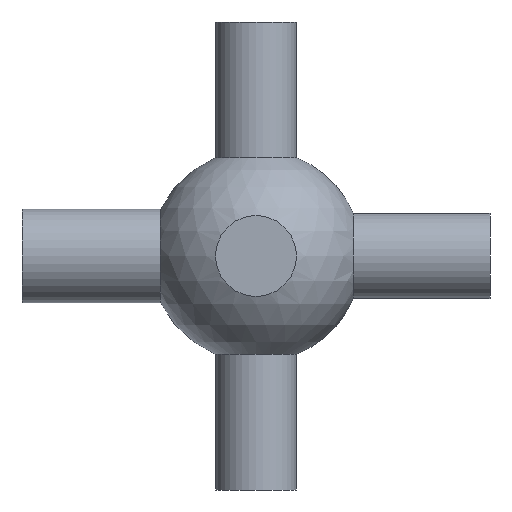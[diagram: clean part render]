
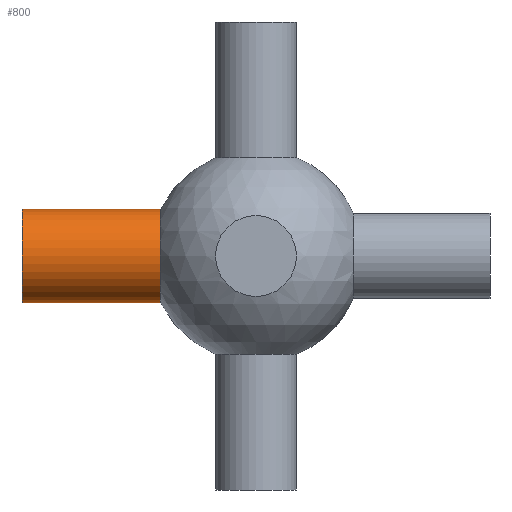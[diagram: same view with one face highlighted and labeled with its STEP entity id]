
A CAD part, front view. The second image highlights one B-rep face of the part: STEP entity #800.
In plain terms, the highlighted cylindrical face has radius 11 mm (diameter 22 mm), a full revolution.
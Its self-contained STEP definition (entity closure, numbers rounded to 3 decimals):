
#96 = SPHERICAL_SURFACE('',#97,25.);
#97 = AXIS2_PLACEMENT_3D('',#98,#99,#100);
#98 = CARTESIAN_POINT('',(0.,0.,0.));
#99 = DIRECTION('',(0.,0.,1.));
#100 = DIRECTION('',(1.,0.,-0.));
#433 = EDGE_CURVE('',#434,#434,#436,.T.);
#434 = VERTEX_POINT('',#435);
#435 = CARTESIAN_POINT('',(-22.45,0.,-11.));
#436 = SURFACE_CURVE('',#437,(#442,#518),.PCURVE_S1.);
#437 = CIRCLE('',#438,11.);
#438 = AXIS2_PLACEMENT_3D('',#439,#440,#441);
#439 = CARTESIAN_POINT('',(-22.45,0.,0.));
#440 = DIRECTION('',(-1.,0.,0.));
#441 = DIRECTION('',(0.,0.,-1.));
#442 = PCURVE('',#96,#443);
#443 = DEFINITIONAL_REPRESENTATION('',(#444),#517);
#444 = B_SPLINE_CURVE_WITH_KNOTS('',8,(#445,#446,#447,#448,#449,#450,
    #451,#452,#453,#454,#455,#456,#457,#458,#459,#460,#461,#462,#463,
    #464,#465,#466,#467,#468,#469,#470,#471,#472,#473,#474,#475,#476,
    #477,#478,#479,#480,#481,#482,#483,#484,#485,#486,#487,#488,#489,
    #490,#491,#492,#493,#494,#495,#496,#497,#498,#499,#500,#501,#502,
    #503,#504,#505,#506,#507,#508,#509,#510,#511,#512,#513,#514,#515,
    #516),.UNSPECIFIED.,.F.,.F.,(9,7,7,7,7,7,7,7,7,7,9),(0.,
    0.785,1.473,2.074,2.6,
    3.06,3.866,4.47,5.377,
    5.83,6.283),.UNSPECIFIED.);
#445 = CARTESIAN_POINT('',(3.142,-0.456));
#446 = CARTESIAN_POINT('',(3.19,-0.456));
#447 = CARTESIAN_POINT('',(3.238,-0.45));
#448 = CARTESIAN_POINT('',(3.285,-0.439));
#449 = CARTESIAN_POINT('',(3.33,-0.423));
#450 = CARTESIAN_POINT('',(3.372,-0.403));
#451 = CARTESIAN_POINT('',(3.41,-0.377));
#452 = CARTESIAN_POINT('',(3.445,-0.349));
#453 = CARTESIAN_POINT('',(3.502,-0.288));
#454 = CARTESIAN_POINT('',(3.525,-0.258));
#455 = CARTESIAN_POINT('',(3.545,-0.225));
#456 = CARTESIAN_POINT('',(3.562,-0.191));
#457 = CARTESIAN_POINT('',(3.575,-0.155));
#458 = CARTESIAN_POINT('',(3.585,-0.118));
#459 = CARTESIAN_POINT('',(3.592,-0.081));
#460 = CARTESIAN_POINT('',(3.598,-0.01));
#461 = CARTESIAN_POINT('',(3.599,0.023));
#462 = CARTESIAN_POINT('',(3.596,0.056));
#463 = CARTESIAN_POINT('',(3.592,0.089));
#464 = CARTESIAN_POINT('',(3.584,0.122));
#465 = CARTESIAN_POINT('',(3.574,0.153));
#466 = CARTESIAN_POINT('',(3.562,0.184));
#467 = CARTESIAN_POINT('',(3.534,0.24));
#468 = CARTESIAN_POINT('',(3.519,0.265));
#469 = CARTESIAN_POINT('',(3.502,0.289));
#470 = CARTESIAN_POINT('',(3.483,0.311));
#471 = CARTESIAN_POINT('',(3.462,0.333));
#472 = CARTESIAN_POINT('',(3.439,0.353));
#473 = CARTESIAN_POINT('',(3.415,0.371));
#474 = CARTESIAN_POINT('',(3.366,0.401));
#475 = CARTESIAN_POINT('',(3.342,0.413));
#476 = CARTESIAN_POINT('',(3.317,0.424));
#477 = CARTESIAN_POINT('',(3.291,0.434));
#478 = CARTESIAN_POINT('',(3.265,0.442));
#479 = CARTESIAN_POINT('',(3.237,0.448));
#480 = CARTESIAN_POINT('',(3.209,0.452));
#481 = CARTESIAN_POINT('',(3.132,0.458));
#482 = CARTESIAN_POINT('',(3.082,0.456));
#483 = CARTESIAN_POINT('',(3.033,0.449));
#484 = CARTESIAN_POINT('',(2.985,0.436));
#485 = CARTESIAN_POINT('',(2.94,0.417));
#486 = CARTESIAN_POINT('',(2.899,0.394));
#487 = CARTESIAN_POINT('',(2.861,0.367));
#488 = CARTESIAN_POINT('',(2.803,0.312));
#489 = CARTESIAN_POINT('',(2.78,0.287));
#490 = CARTESIAN_POINT('',(2.76,0.26));
#491 = CARTESIAN_POINT('',(2.742,0.231));
#492 = CARTESIAN_POINT('',(2.727,0.201));
#493 = CARTESIAN_POINT('',(2.715,0.17));
#494 = CARTESIAN_POINT('',(2.705,0.138));
#495 = CARTESIAN_POINT('',(2.687,0.057));
#496 = CARTESIAN_POINT('',(2.682,0.007));
#497 = CARTESIAN_POINT('',(2.682,-0.043));
#498 = CARTESIAN_POINT('',(2.689,-0.093));
#499 = CARTESIAN_POINT('',(2.701,-0.142));
#500 = CARTESIAN_POINT('',(2.72,-0.19));
#501 = CARTESIAN_POINT('',(2.744,-0.234));
#502 = CARTESIAN_POINT('',(2.788,-0.295));
#503 = CARTESIAN_POINT('',(2.805,-0.315));
#504 = CARTESIAN_POINT('',(2.822,-0.333));
#505 = CARTESIAN_POINT('',(2.841,-0.35));
#506 = CARTESIAN_POINT('',(2.862,-0.367));
#507 = CARTESIAN_POINT('',(2.884,-0.381));
#508 = CARTESIAN_POINT('',(2.906,-0.395));
#509 = CARTESIAN_POINT('',(2.954,-0.419));
#510 = CARTESIAN_POINT('',(2.979,-0.429));
#511 = CARTESIAN_POINT('',(3.005,-0.438));
#512 = CARTESIAN_POINT('',(3.031,-0.445));
#513 = CARTESIAN_POINT('',(3.059,-0.45));
#514 = CARTESIAN_POINT('',(3.086,-0.454));
#515 = CARTESIAN_POINT('',(3.114,-0.456));
#516 = CARTESIAN_POINT('',(3.142,-0.456));
#517 = ( GEOMETRIC_REPRESENTATION_CONTEXT(2) 
PARAMETRIC_REPRESENTATION_CONTEXT() REPRESENTATION_CONTEXT('2D SPACE',''
  ) );
#518 = PCURVE('',#519,#524);
#519 = CYLINDRICAL_SURFACE('',#520,11.);
#520 = AXIS2_PLACEMENT_3D('',#521,#522,#523);
#521 = CARTESIAN_POINT('',(0.,0.,0.));
#522 = DIRECTION('',(-1.,0.,0.));
#523 = DIRECTION('',(0.,0.,-1.));
#524 = DEFINITIONAL_REPRESENTATION('',(#525),#529);
#525 = LINE('',#526,#527);
#526 = CARTESIAN_POINT('',(0.,22.45));
#527 = VECTOR('',#528,1.);
#528 = DIRECTION('',(1.,0.));
#529 = ( GEOMETRIC_REPRESENTATION_CONTEXT(2) 
PARAMETRIC_REPRESENTATION_CONTEXT() REPRESENTATION_CONTEXT('2D SPACE',''
  ) );
#800 = ADVANCED_FACE('banana_4',(#801),#519,.T.);
#801 = FACE_BOUND('',#802,.T.);
#802 = EDGE_LOOP('',(#803,#826,#853,#854));
#803 = ORIENTED_EDGE('',*,*,#804,.T.);
#804 = EDGE_CURVE('',#434,#805,#807,.T.);
#805 = VERTEX_POINT('',#806);
#806 = CARTESIAN_POINT('',(-55.,0.,-11.));
#807 = SEAM_CURVE('',#808,(#812,#819),.PCURVE_S1.);
#808 = LINE('',#809,#810);
#809 = CARTESIAN_POINT('',(0.,0.,-11.));
#810 = VECTOR('',#811,1.);
#811 = DIRECTION('',(-1.,0.,0.));
#812 = PCURVE('',#519,#813);
#813 = DEFINITIONAL_REPRESENTATION('',(#814),#818);
#814 = LINE('',#815,#816);
#815 = CARTESIAN_POINT('',(6.283,-0.));
#816 = VECTOR('',#817,1.);
#817 = DIRECTION('',(0.,1.));
#818 = ( GEOMETRIC_REPRESENTATION_CONTEXT(2) 
PARAMETRIC_REPRESENTATION_CONTEXT() REPRESENTATION_CONTEXT('2D SPACE',''
  ) );
#819 = PCURVE('',#519,#820);
#820 = DEFINITIONAL_REPRESENTATION('',(#821),#825);
#821 = LINE('',#822,#823);
#822 = CARTESIAN_POINT('',(0.,-0.));
#823 = VECTOR('',#824,1.);
#824 = DIRECTION('',(0.,1.));
#825 = ( GEOMETRIC_REPRESENTATION_CONTEXT(2) 
PARAMETRIC_REPRESENTATION_CONTEXT() REPRESENTATION_CONTEXT('2D SPACE',''
  ) );
#826 = ORIENTED_EDGE('',*,*,#827,.F.);
#827 = EDGE_CURVE('',#805,#805,#828,.T.);
#828 = SURFACE_CURVE('',#829,(#834,#841),.PCURVE_S1.);
#829 = CIRCLE('',#830,11.);
#830 = AXIS2_PLACEMENT_3D('',#831,#832,#833);
#831 = CARTESIAN_POINT('',(-55.,0.,0.));
#832 = DIRECTION('',(-1.,0.,0.));
#833 = DIRECTION('',(0.,0.,-1.));
#834 = PCURVE('',#519,#835);
#835 = DEFINITIONAL_REPRESENTATION('',(#836),#840);
#836 = LINE('',#837,#838);
#837 = CARTESIAN_POINT('',(0.,55.));
#838 = VECTOR('',#839,1.);
#839 = DIRECTION('',(1.,0.));
#840 = ( GEOMETRIC_REPRESENTATION_CONTEXT(2) 
PARAMETRIC_REPRESENTATION_CONTEXT() REPRESENTATION_CONTEXT('2D SPACE',''
  ) );
#841 = PCURVE('',#842,#847);
#842 = PLANE('',#843);
#843 = AXIS2_PLACEMENT_3D('',#844,#845,#846);
#844 = CARTESIAN_POINT('',(-55.,0.,0.));
#845 = DIRECTION('',(-1.,0.,0.));
#846 = DIRECTION('',(0.,0.,-1.));
#847 = DEFINITIONAL_REPRESENTATION('',(#848),#852);
#848 = CIRCLE('',#849,11.);
#849 = AXIS2_PLACEMENT_2D('',#850,#851);
#850 = CARTESIAN_POINT('',(0.,0.));
#851 = DIRECTION('',(1.,0.));
#852 = ( GEOMETRIC_REPRESENTATION_CONTEXT(2) 
PARAMETRIC_REPRESENTATION_CONTEXT() REPRESENTATION_CONTEXT('2D SPACE',''
  ) );
#853 = ORIENTED_EDGE('',*,*,#804,.F.);
#854 = ORIENTED_EDGE('',*,*,#433,.T.);
